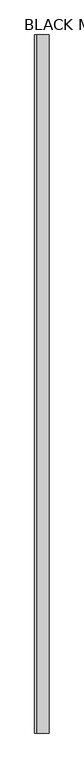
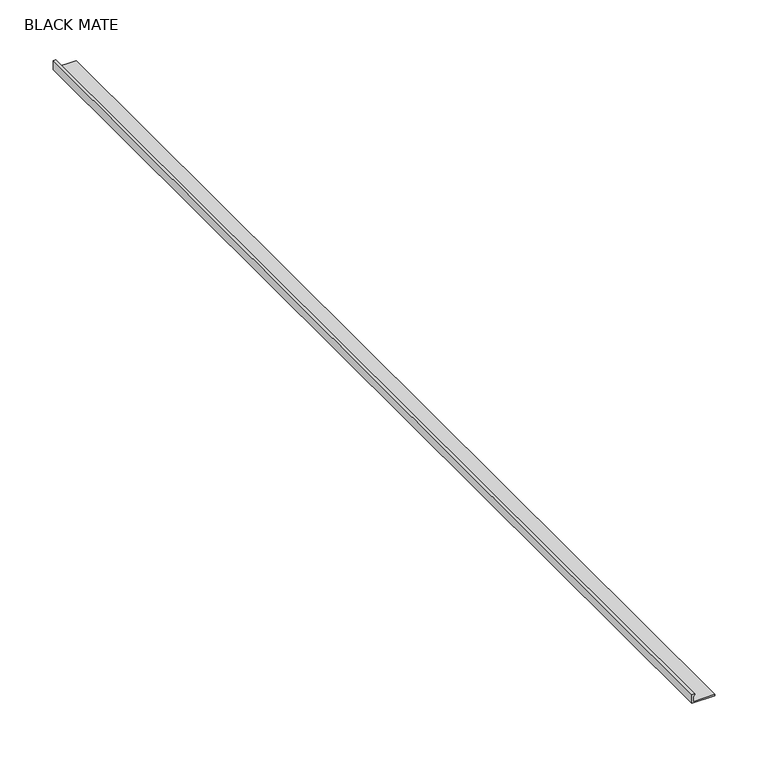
"""IFC4 building model written with IfcOpenShell, lengths in millimetres: proxy geometry, PORTOBELLO - ICON SLIM 0,3X120 : BLACK MATE."""

from ifc_helpers import new_model, si_unit, frame, origin, place, context, project, spatial, polyline, outline, extrude, source, transform, mapped, element, save


def black_mate_18039f9f(model_context):
    return source(origin(), model_context, "Body", "SweptSolid", [
        extrude(outline(polyline([(2.6984894, 3.0), (2.6984894, 0.0), (-7.3015106, 0.0), (-7.3015106, 25.0), (-5.8015106, 25.0), (-5.8015106, 1.5), (0.0, 1.5), (1.5, 3.0), (2.6984894, 3.0)])), frame((0.0, -600.0, 0.0), z_axis=(0.0, 1.0, 0.0), x_axis=(0.0, 0.0, 1.0)), (0.0, 0.0, 1.0), 1200.0),
    ])


if __name__ == "__main__":
    model = new_model("IFC4")
    model_context = context("Model", 3, world=origin())
    ifc_project = project(units=[si_unit("LENGTHUNIT", "METRE", prefix="MILLI")], contexts=[model_context])
    site = spatial("IfcSite", under=ifc_project)
    building = spatial("IfcBuilding", under=site)
    placement = place(None, origin())
    black_mate_shape = black_mate_18039f9f(model_context)
    element("IfcBuildingElementProxy", 1, Name="PORTOBELLO - ICON SLIM 0,3X120 : BLACK MATE", ObjectType="PORTOBELLO - ICON SLIM 0,3X120 : BLACK MATE", at=placement, inside=building, context=model_context, shape_type="MappedRepresentation", body=[
        mapped(black_mate_shape, transform((0.0, 0.0, 0.0), x_axis=(1.0, 0.0, 0.0), y_axis=(0.0, 1.0, 0.0), z_axis=(0.0, 0.0, 1.0))),
    ])
    save(model, "model.ifc")
